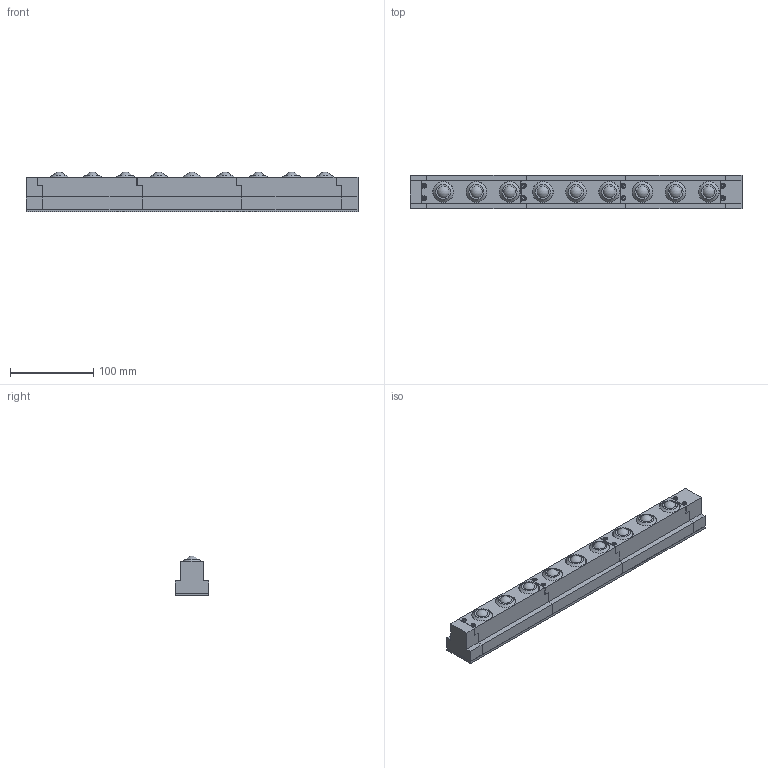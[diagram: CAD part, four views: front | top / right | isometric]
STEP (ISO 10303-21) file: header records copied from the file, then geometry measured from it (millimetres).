
FILE_DESCRIPTION(/* description */ (''),/* implementation_level */ '2;1');
FILE_NAME(/* name */ 'Z:\34-Tei\01-web 3Dデータ\45-ISR-28T\X2\578B\X0\\ISR-28T-400.stp',/* time_stamp */ '2015-01-16T10:56:29+09:00',/* author */ ('yamaki'),/* organization */ (''),/* preprocessor_version */ 'ST-DEVELOPER v15.6',/* originating_system */ 'Autodesk Inventor 2015',/* authorisation */ '');
FILE_SCHEMA (('AUTOMOTIVE_DESIGN { 1 0 10303 214 3 1 1 }'));
Length unit declared in the file: millimetre
Products named in the file (9): 4B03BA-03; 4B03TB; 4B03CB; JIS B 1111 - Csunk M4 x 10 - H; JIS B 1176 - M3 x 10; 4B03SL; 0316AA; 4B03PS; 4B03AA
Bounding box: 400 x 40 x 47.95 mm (x, y, z)
Volume: 509809.4 mm3; surface area: 200246 mm2
Topology: 60 solids, 60 shells, 1600 faces, 3882 edges, 2484 vertices
Faces by surface type: plane 603, cone 476, cylinder 321, torus 191, sphere 9
Full cylindrical faces by diameter (mm): 2 x7, 2.459 x8, 2.5 x6, 3 x8, 3.242 x28, 3.5 x8, 3.571 x28, 4 x28, 4.5 x28, 4.917 x9, 5.5 x8, 6 x9, 6.2 x4, 6.5 x9, 8.4 x28, 10 x9, 11.445 x1, 24 x18, 24.9 x9, 25 x9, 29.8 x18, 30 x9
Entity records: 7876 total; most frequent: CARTESIAN_POINT 1513, DIRECTION 1360, ORIENTED_EDGE 964, AXIS2_PLACEMENT_3D 579, EDGE_LOOP 504, EDGE_CURVE 482, VERTEX_POINT 386, FACE_OUTER_BOUND 270
